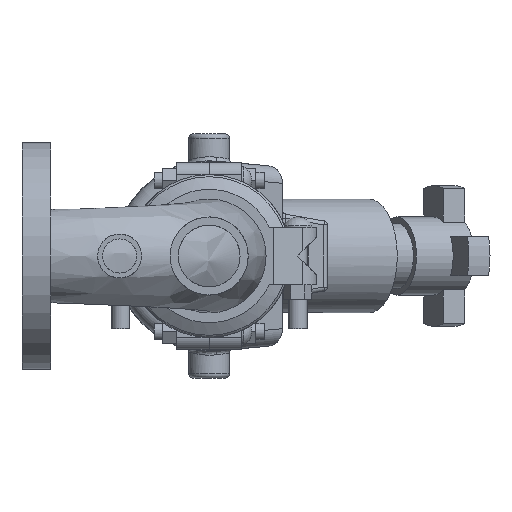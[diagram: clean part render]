
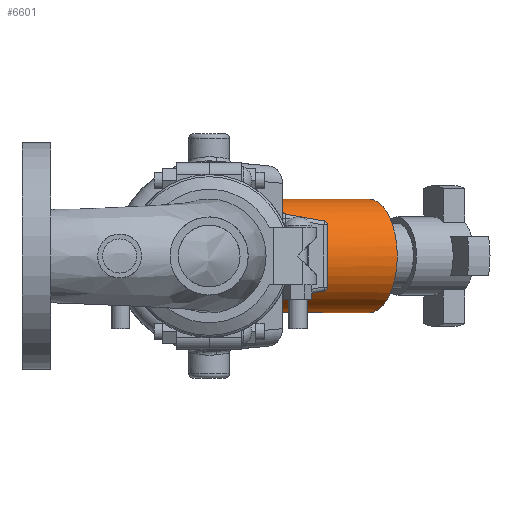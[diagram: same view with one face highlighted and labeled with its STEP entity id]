
A CAD part, front view. The second image highlights one B-rep face of the part: STEP entity #6601.
In plain terms, the highlighted cylindrical face has radius 44.45 mm (diameter 88.9 mm), a full revolution.
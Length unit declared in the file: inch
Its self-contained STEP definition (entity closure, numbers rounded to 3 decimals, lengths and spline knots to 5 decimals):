
#310=ELLIPSE('',#7197,2.02073,1.75);
#311=ELLIPSE('',#7198,3.5,1.75);
#1361=FACE_BOUND('',#2132,.T.);
#1669=FACE_OUTER_BOUND('',#2131,.T.);
#2131=EDGE_LOOP('',(#5169));
#2132=EDGE_LOOP('',(#5170,#5171));
#2491=CIRCLE('',#7162,1.75);
#2929=VERTEX_POINT('',#11529);
#2965=VERTEX_POINT('',#11632);
#2966=VERTEX_POINT('',#11633);
#3687=EDGE_CURVE('',#2929,#2929,#2491,.T.);
#3737=EDGE_CURVE('',#2965,#2966,#310,.T.);
#3738=EDGE_CURVE('',#2966,#2965,#311,.T.);
#5169=ORIENTED_EDGE('',*,*,#3687,.T.);
#5170=ORIENTED_EDGE('',*,*,#3737,.F.);
#5171=ORIENTED_EDGE('',*,*,#3738,.F.);
#5897=CYLINDRICAL_SURFACE('',#7222,1.75);
#6601=ADVANCED_FACE('',(#1669,#1361),#5897,.T.);
#7162=AXIS2_PLACEMENT_3D('',#11530,#8519,#8520);
#7197=AXIS2_PLACEMENT_3D('',#11634,#8621,#8622);
#7198=AXIS2_PLACEMENT_3D('',#11635,#8623,#8624);
#7222=AXIS2_PLACEMENT_3D('',#11668,#8671,#8672);
#8519=DIRECTION('center_axis',(-0.5,0.866,0.));
#8520=DIRECTION('ref_axis',(-0.866,-0.5,0.));
#8621=DIRECTION('center_axis',(-0.866,0.5,0.));
#8622=DIRECTION('ref_axis',(-0.5,-0.866,0.));
#8623=DIRECTION('center_axis',(0.5,0.866,0.));
#8624=DIRECTION('ref_axis',(-0.866,0.5,0.));
#8671=DIRECTION('center_axis',(-0.5,0.866,0.));
#8672=DIRECTION('ref_axis',(-0.866,-0.5,0.));
#11529=CARTESIAN_POINT('',(-1.04054,-5.78112,0.));
#11530=CARTESIAN_POINT('Origin',(0.475,-4.90612,0.));
#11632=CARTESIAN_POINT('',(-2.35755,0.,-1.75));
#11633=CARTESIAN_POINT('',(-2.35755,0.,1.75));
#11634=CARTESIAN_POINT('Origin',(-2.35755,0.,0.));
#11635=CARTESIAN_POINT('Origin',(-2.35755,0.,0.));
#11668=CARTESIAN_POINT('Origin',(0.475,-4.90612,0.));
